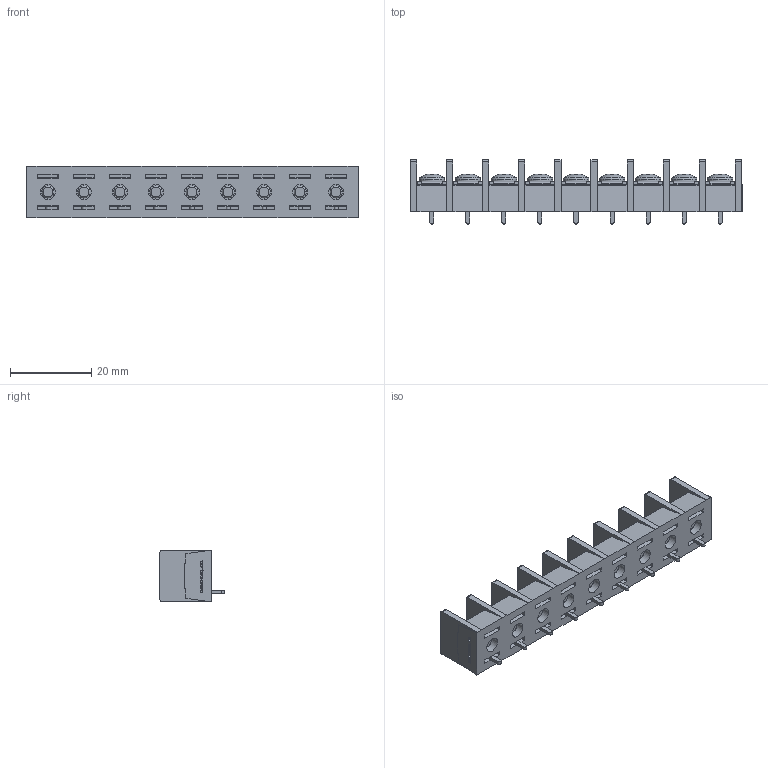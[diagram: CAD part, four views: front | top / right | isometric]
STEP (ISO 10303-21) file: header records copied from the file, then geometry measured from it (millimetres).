
FILE_DESCRIPTION(/* description */ ('Alibre Inc.'),/* implementation_level */ '2;1');
FILE_NAME(/* name */ 'export0',/* time_stamp */ '2015-10-20T19:44:24+09:00',/* author */ (''),/* organization */ (''),/* preprocessor_version */ 'ST-DEVELOPER v14',/* originating_system */ 'Alibre',/* authorisation */ '');
FILE_SCHEMA (('CONFIG_CONTROL_DESIGN'));
Length unit declared in the file: centimetre
Products named in the file (1): ID_1
Bounding box: 81.92 x 15.8 x 12.8 mm (x, y, z)
Volume: 7600.9 mm3; surface area: 9441.4 mm2
Topology: 1 solids, 154 shells, 2919 faces, 7493 edges, 4958 vertices
Faces by surface type: plane 2183, bspline 572, cylinder 92, cone 45, torus 18, sphere 9
Full cylindrical faces by diameter (mm): 3 x18, 3.7 x9, 4.6 x9, 6.3 x9
Entity records: 84252 total; most frequent: CARTESIAN_POINT 20396, ORIENTED_EDGE 14788, DIRECTION 8806, EDGE_CURVE 7394, VECTOR 5695, LINE 5695, VERTEX_POINT 4931, EDGE_LOOP 3193
